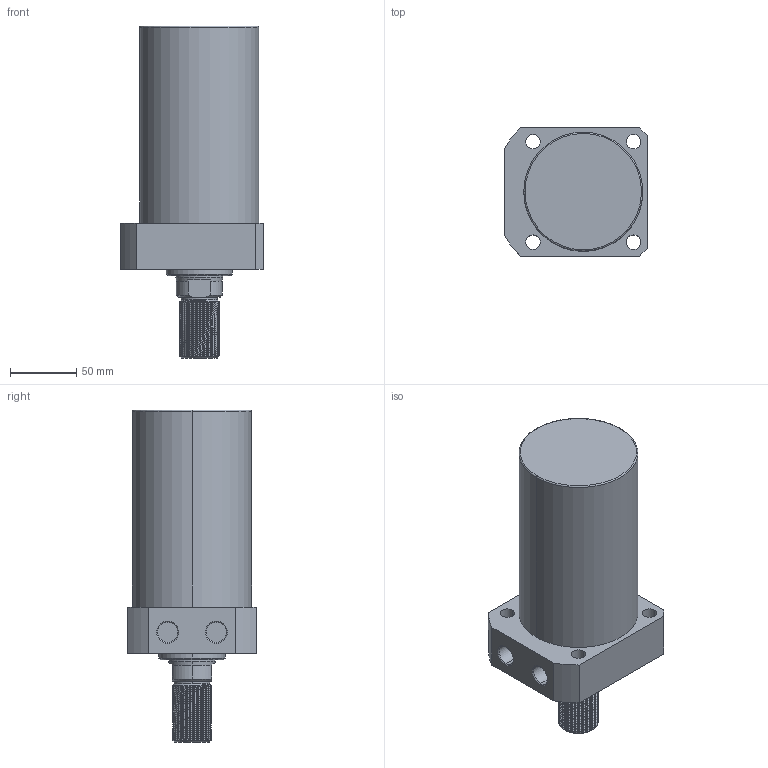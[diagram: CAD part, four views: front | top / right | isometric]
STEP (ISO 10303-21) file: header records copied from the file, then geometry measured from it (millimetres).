
FILE_DESCRIPTION (( 'STEP AP214' ), '1' );
FILE_NAME ('CLLR-090CT-105.STEP', '2020-01-10T02:24:03', ( 'Windows' ), ( 'Microsoft' ), 'SwSTEP 2.0', 'SolidWorks 2015', '' );
FILE_SCHEMA (( 'AUTOMOTIVE_DESIGN' ));
Length unit declared in the file: millimetre
Products named in the file (1): CLLR-090CT-105
Bounding box: 108 x 97 x 251 mm (x, y, z)
Volume: 1341757.8 mm3; surface area: 91145 mm2
Topology: 1 solids, 1 shells, 125 faces, 331 edges, 216 vertices
Faces by surface type: cylinder 85, plane 20, cone 16, torus 2, bspline 2
Entity records: 7037 total; most frequent: CARTESIAN_POINT 4141, ORIENTED_EDGE 662, DIRECTION 530, EDGE_CURVE 331, VERTEX_POINT 216, AXIS2_PLACEMENT_3D 204, EDGE_LOOP 141, ADVANCED_FACE 125
